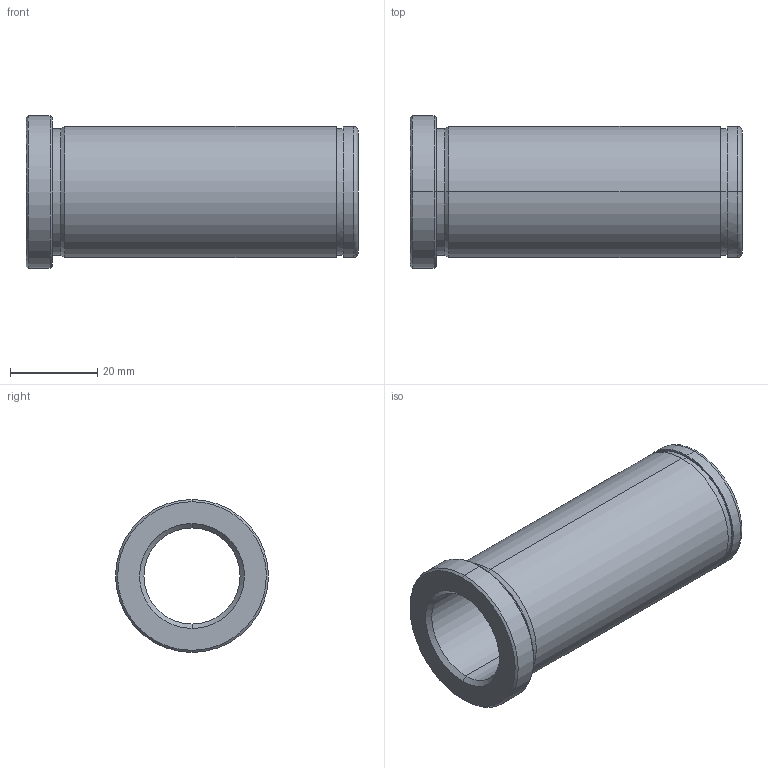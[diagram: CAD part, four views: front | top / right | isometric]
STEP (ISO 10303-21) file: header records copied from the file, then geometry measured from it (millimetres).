
FILE_DESCRIPTION(('CATIA V5 STEP Exchange'),'2;1');
FILE_NAME('C:\Users\Utente\Desktop\IO LAVORO\3D X SITO CF\X SITO\PLASTICA\553\553-22X76.stp','2021-05-25T18:08:37+00:00',('none'),('none'),'CATIA Version 5 Release 20 GA (IN-10)','CATIA V5 STEP AP203','none');
FILE_SCHEMA(('CONFIG_CONTROL_DESIGN'));
Length unit declared in the file: millimetre
Products named in the file (1): 553-22X76
Bounding box: 76 x 35 x 35 mm (x, y, z)
Volume: 26058.5 mm3; surface area: 13623.9 mm2
Topology: 1 solids, 1 shells, 29 faces, 92 edges, 68 vertices
Faces by surface type: cylinder 12, cone 8, plane 5, torus 4
Entity records: 1222 total; most frequent: CARTESIAN_POINT 368, ORIENTED_EDGE 184, DIRECTION 136, EDGE_CURVE 92, AXIS2_PLACEMENT_3D 88, VERTEX_POINT 68, CIRCLE 58, EDGE_LOOP 34
